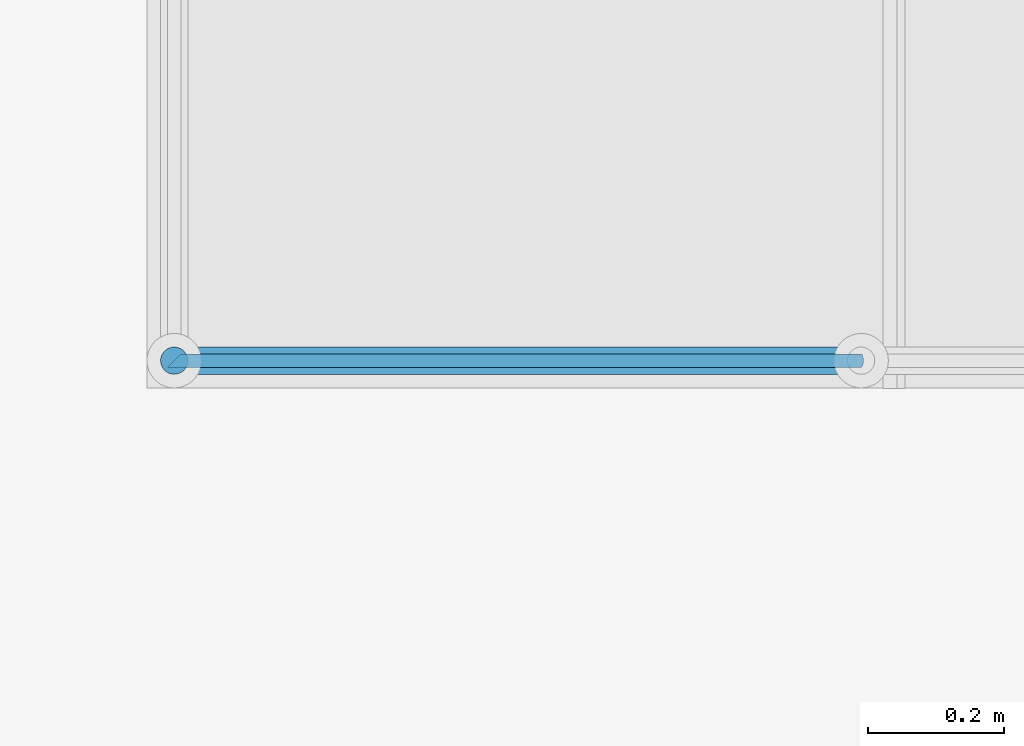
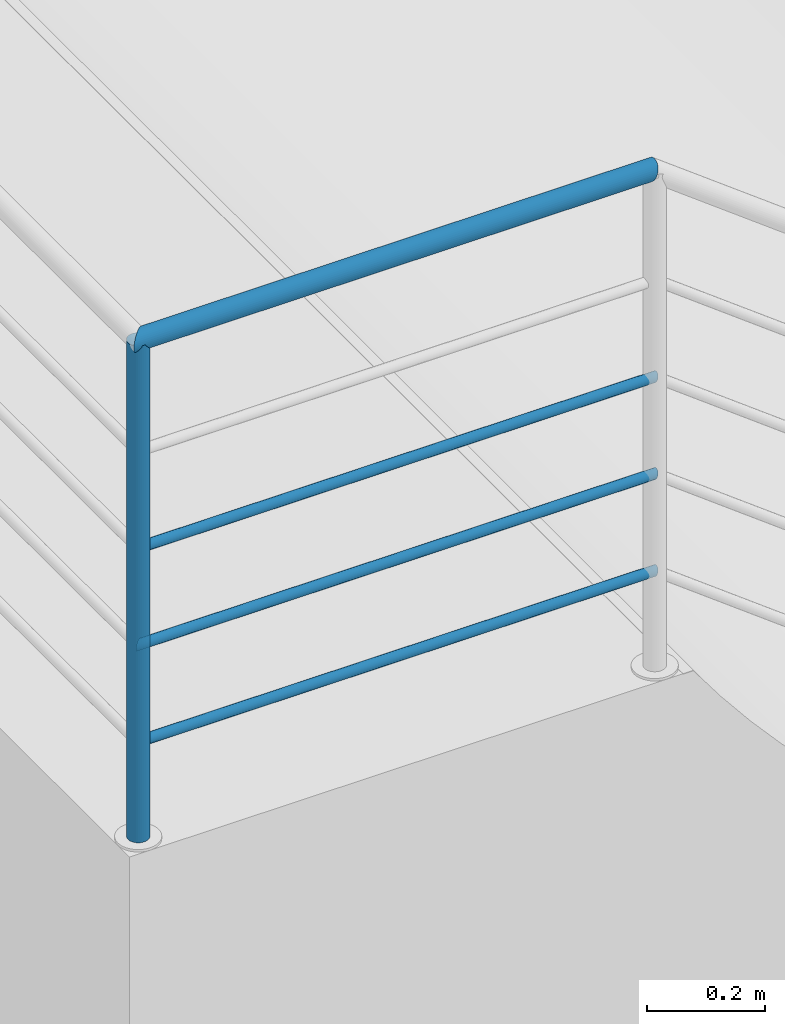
# One storey, part 27 of 237: 6 building element parts, 1 element without a shape of its own.
"""IFC2X3 building model written with IfcOpenShell, lengths in millimetres."""

import ifcopenshell
import ifcopenshell.guid

model = None  # the IFC model being written
_history = None  # IfcOwnerHistory: only IFC2X3 demands one
_inside = {}  # id of a spatial element -> (the spatial element, [elements in it])
_under = {}  # id of a project, library or spatial element -> (it, [spatial elements below it])
_declared = {}  # id of a project -> (the project, [libraries it declares])
_typed = {}  # id of a type object -> (the type object, [elements of that type])
_made_of = {}  # id of a material, layer set ... -> (it, [elements and type objects made of it])


def new_model(schema):
    """Start an empty IFC model of exactly this schema.

    Asked for "IFC4X3", IfcOpenShell would pick the latest addendum, in which some entities
    have other attributes; the version numbers below select the first issue.
    IFC2X3 requires an IfcOwnerHistory on every rooted entity: one is made here for all.
    """
    global model, _history
    if schema == "IFC4X3":
        model = ifcopenshell.file(schema_version=(4, 3, 0, 0))
    else:
        model = ifcopenshell.file(schema=schema)
    _inside.clear()
    _under.clear()
    _declared.clear()
    _typed.clear()
    _made_of.clear()
    _history = None
    if model.schema == "IFC2X3":
        org = make("IfcOrganization", Name="unknown")
        user = make(
            "IfcPersonAndOrganization",
            ThePerson=make("IfcPerson", FamilyName="unknown"),
            TheOrganization=org,
        )
        app = make(
            "IfcApplication",
            ApplicationDeveloper=org,
            Version="unknown",
            ApplicationFullName="unknown",
            ApplicationIdentifier="unknown",
        )
        _history = make(
            "IfcOwnerHistory",
            OwningUser=user,
            OwningApplication=app,
            ChangeAction="ADDED",
            CreationDate=0,
        )
    return model


def make(cls, **values):
    """One entity of the class cls with the attributes given. An attribute that is None is left unset."""
    return model.create_entity(
        cls, **{name: value for name, value in values.items() if value is not None}
    )


def entity(cls, *values):
    """Any entity or typed value of the class cls, its attributes in the order of the schema. None: left unset."""
    e = model.create_entity(cls)
    for i, value in enumerate(values):
        if value is not None:
            e[i] = value
    return e


def rooted(cls, **values):
    """An entity with a GlobalId (a new one), such as an element, a storey or a relation."""
    return make(cls, GlobalId=ifcopenshell.guid.new(), OwnerHistory=_history, **values)


def si_unit(unit_type, name, prefix=None):
    """IfcSIUnit, for example si_unit("LENGTHUNIT", "METRE", prefix="MILLI")."""
    return make("IfcSIUnit", UnitType=unit_type, Prefix=prefix, Name=name)


def converted_unit(unit_type, name, factor, base, dimensions=None, offset=None):
    """IfcConversionBasedUnit, such as the inch: factor (a typed value) times the base unit."""
    return make(
        "IfcConversionBasedUnit"
        if offset is None
        else "IfcConversionBasedUnitWithOffset",
        ConversionOffset=offset,
        Dimensions=None
        if dimensions is None
        else entity("IfcDimensionalExponents", *dimensions),
        UnitType=unit_type,
        Name=name,
        ConversionFactor=make(
            "IfcMeasureWithUnit", ValueComponent=factor, UnitComponent=base
        ),
    )


def derived_unit(unit_type, elements):
    """IfcDerivedUnit: a product of units, each with its exponent."""
    return make(
        "IfcDerivedUnit",
        Elements=[
            make("IfcDerivedUnitElement", Unit=unit, Exponent=power)
            for unit, power in elements
        ],
        UnitType=unit_type,
    )


def money_unit(currency):
    """IfcMonetaryUnit."""
    return make("IfcMonetaryUnit", Currency=currency)


def assignment(units):
    """IfcUnitAssignment: the units of a project."""
    return None if units is None else make("IfcUnitAssignment", Units=units)


def point(xyz):
    """IfcCartesianPoint."""
    return None if xyz is None else make("IfcCartesianPoint", Coordinates=xyz)


def direction(xyz):
    """IfcDirection."""
    return None if xyz is None else make("IfcDirection", DirectionRatios=xyz)


def frame(location, z_axis=None, x_axis=None):
    """IfcAxis2Placement3D, a coordinate frame: its origin and axes. An axis left out is left unset."""
    return make(
        "IfcAxis2Placement3D",
        Location=point(location),
        Axis=direction(z_axis),
        RefDirection=direction(x_axis),
    )


def origin_with_axes():
    """The frame at (0, 0, 0) with the z axis (0, 0, 1) and the x axis (1, 0, 0) written out."""
    return frame((0.0, 0.0, 0.0), z_axis=(0.0, 0.0, 1.0), x_axis=(1.0, 0.0, 0.0))


def place(relative_to, where):
    """IfcLocalPlacement: puts the frame where relative to a parent placement (None: the world)."""
    return make(
        "IfcLocalPlacement", PlacementRelTo=relative_to, RelativePlacement=where
    )


def context(
    kind, dimensions, precision=None, world=None, true_north=None, identifier=None
):
    """IfcGeometricRepresentationContext, for example the 3D "Model" context."""
    return make(
        "IfcGeometricRepresentationContext",
        ContextIdentifier=identifier,
        ContextType=kind,
        CoordinateSpaceDimension=dimensions,
        Precision=precision,
        WorldCoordinateSystem=world,
        TrueNorth=true_north,
    )


def subcontext(parent, identifier, kind, view, scale=None):
    """IfcGeometricRepresentationSubContext, for example "Body" below "Model"."""
    return make(
        "IfcGeometricRepresentationSubContext",
        ContextIdentifier=identifier,
        ContextType=kind,
        ParentContext=parent,
        TargetScale=scale,
        TargetView=view,
    )


def project(units=None, contexts=None):
    """IfcProject with its units and contexts."""
    return rooted(
        "IfcProject",
        Name="project",
        RepresentationContexts=contexts,
        UnitsInContext=assignment(units),
    )


def spatial(cls, under=None, at=None, **own):
    """A site, building, storey or space (cls), placed at a placement, below another one or the project."""
    s = rooted(cls, ObjectPlacement=at, **own)
    if under is not None:
        _under.setdefault(under.id(), (under, []))[1].append(s)
    return s


def faces_of(points, faces, orient=None, outer=None):
    """IfcFace entities. A face is a list of loops; a loop is a list of indices into points, from 0.

    orient and outer hold one flag for each loop. By default every Orientation is true, the
    first loop of a face is its IfcFaceOuterBound and the others are IfcFaceBound.
    """
    made = []
    for i, loops in enumerate(faces):
        bounds = []
        for j, loop in enumerate(loops):
            is_outer = j == 0 if outer is None else outer[i][j]
            bounds.append(
                make(
                    "IfcFaceOuterBound" if is_outer else "IfcFaceBound",
                    Bound=make("IfcPolyLoop", Polygon=[points[k] for k in loop]),
                    Orientation=True if orient is None else orient[i][j],
                )
            )
        made.append(make("IfcFace", Bounds=bounds))
    return made


def faceted_brep(points, faces, orient=None, outer=None, voids=None):
    """IfcFacetedBrep: a solid bounded by flat faces; with voids (closed shells), ...WithVoids."""
    shared = [point(p) for p in points]
    hull = make("IfcClosedShell", CfsFaces=faces_of(shared, faces, orient, outer))
    if voids is None:
        return make("IfcFacetedBrep", Outer=hull)
    return make(
        "IfcFacetedBrepWithVoids",
        Outer=hull,
        Voids=[
            make(cls, CfsFaces=faces_of(shared, fs, o, b)) for cls, fs, o, b in voids
        ],
    )


def shape(context_of_items, identifier, shape_type, items):
    """IfcShapeRepresentation: the items that make up one representation, for example the "Body"."""
    return make(
        "IfcShapeRepresentation",
        ContextOfItems=context_of_items,
        RepresentationIdentifier=identifier,
        RepresentationType=shape_type,
        Items=items,
    )


def material(Name=None, Category=None):
    """IfcMaterial."""
    return make("IfcMaterial", Name=Name, Category=Category)


def made_of(thing, what):
    """Note that an element or type object is made of a material, layer set ...; save() writes the relation."""
    if what is not None:
        _made_of.setdefault(what.id(), (what, []))[1].append(thing)
    return thing


def type_object(cls, material=None, **own):
    """A type object (cls), such as IfcWallType, which elements share."""
    return made_of(rooted(cls, **own), material)


def element(
    cls,
    number,
    at=None,
    inside=None,
    cuts=None,
    type_object=None,
    material=None,
    context=None,
    identifier="Body",
    shape_type=None,
    held_by="IfcProductDefinitionShape",
    body=None,
    shapes=None,
    **own,
):
    """One element of the class cls, such as IfcWall. Its Tag is "e" and its number.

    at: its placement. inside: the storey or other place that contains it. cuts: it is an
    opening in that element (IfcRelVoidsElement). A single representation is given by context,
    identifier, shape_type and body (its items); several are given by shapes. held_by: the class
    of the entity that holds the representations. save() writes the other relations.
    """
    e = rooted(cls, Tag="e%d" % number, ObjectPlacement=at, **own)
    if body is not None:
        shapes = [shape(context, identifier, shape_type, body)]
    if shapes is not None:
        e.Representation = make(held_by, Representations=shapes)
    if inside is not None:
        _inside.setdefault(inside.id(), (inside, []))[1].append(e)
    if cuts is not None:
        rooted(
            "IfcRelVoidsElement", RelatingBuildingElement=cuts, RelatedOpeningElement=e
        )
    if type_object is not None:
        _typed.setdefault(type_object.id(), (type_object, []))[1].append(e)
    return made_of(e, material)


def aggregate(whole, parts):
    """IfcRelAggregates: a whole, such as a stair, and the parts it consists of."""
    return rooted("IfcRelAggregates", RelatingObject=whole, RelatedObjects=parts)


def save(model, path):
    """Write the relations noted so far, then the file.

    IfcRelAggregates (storeys below a building ...), IfcRelContainedInSpatialStructure (elements
    in a storey), IfcRelDefinesByType, IfcRelAssociatesMaterial and IfcRelDeclares: one each for
    every whole, place, type object, material and project.
    """
    for whole, parts in _under.values():
        aggregate(whole, parts)
    for where, things in _inside.values():
        rooted(
            "IfcRelContainedInSpatialStructure",
            RelatedElements=things,
            RelatingStructure=where,
        )
    for kind, things in _typed.values():
        rooted("IfcRelDefinesByType", RelatedObjects=things, RelatingType=kind)
    for what, things in _made_of.values():
        rooted("IfcRelAssociatesMaterial", RelatedObjects=things, RelatingMaterial=what)
    for by, libraries in _declared.values():
        rooted("IfcRelDeclares", RelatingContext=by, RelatedDefinitions=libraries)
    model.write(path)


model = new_model("IFC2X3")

# Units and contexts
model_context = context("Model", 3, precision=0.01, world=origin_with_axes(), true_north=direction((0.0, 1.0)))
body_context = subcontext(model_context, "Body", "Model", "MODEL_VIEW")
ifc_project = project(units=[si_unit("LENGTHUNIT", "METRE", prefix="MILLI"), si_unit("AREAUNIT", "SQUARE_METRE"), si_unit("VOLUMEUNIT", "CUBIC_METRE"), converted_unit("PLANEANGLEUNIT", "DEGREE", entity("IfcPlaneAngleMeasure", 0.0174532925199), si_unit("PLANEANGLEUNIT", "RADIAN"), dimensions=[0, 0, 0, 0, 0, 0, 0]), money_unit("USD"), converted_unit("TIMEUNIT", "Year", entity("IfcTimeMeasure", 31556926.0), si_unit("TIMEUNIT", "SECOND"), dimensions=[0, 0, 1, 0, 0, 0, 0]), si_unit("MASSUNIT", "GRAM", prefix="KILO"), si_unit("THERMODYNAMICTEMPERATUREUNIT", "DEGREE_CELSIUS"), si_unit("LUMINOUSINTENSITYUNIT", "LUMEN"), si_unit("ENERGYUNIT", "JOULE", prefix="MEGA"), derived_unit("THERMALCONDUCTANCEUNIT", [(si_unit("POWERUNIT", "WATT"), 1), (si_unit("LENGTHUNIT", "METRE"), -1), (si_unit("THERMODYNAMICTEMPERATUREUNIT", "KELVIN"), -1)]), derived_unit("SPECIFICHEATCAPACITYUNIT", [(si_unit("ENERGYUNIT", "JOULE"), 1), (si_unit("MASSUNIT", "GRAM", prefix="KILO"), -1), (si_unit("THERMODYNAMICTEMPERATUREUNIT", "KELVIN"), -1)]), derived_unit("MASSDENSITYUNIT", [(si_unit("MASSUNIT", "GRAM", prefix="KILO"), 1), (si_unit("VOLUMEUNIT", "CUBIC_METRE"), -1)])], contexts=[model_context])

# Site, building, storey
site_placement = place(None, origin_with_axes())
site = spatial("IfcSite", under=ifc_project, at=site_placement, Name="Local", CompositionType="ELEMENT")
building_placement = place(site_placement, origin_with_axes())
building = spatial("IfcBuilding", under=site, at=building_placement, Name="Construção", CompositionType="ELEMENT")
storey_placement = place(building_placement, origin_with_axes())
storey = spatial("IfcBuildingStorey", under=building, at=storey_placement, Name="Pavimento Térreo", CompositionType="ELEMENT", Elevation=0.0)

# Railing, building element parts
railing_type = type_object("IfcRailingType", Name="Tipo de Guarda-Corpo", PredefinedType="NOTDEFINED")
railing_placement = place(storey_placement, frame((53912.4440926, 33356.4497128, -1263.04952679), z_axis=(0.0, 0.0, 1.0), x_axis=(1.0, 0.0, 0.0)))
railing = element("IfcRailing", 1, at=railing_placement, inside=storey, type_object=railing_type, Name="Guarda-Corpo - 001", PredefinedType="NOTDEFINED")
ifc_material = material(Name="Aço - Inoxidável")
building_element_part_1_placement = place(railing_placement, origin_with_axes())
building_element_part_1 = element("IfcBuildingElementPart", 2, at=building_element_part_1_placement, material=ifc_material, Name="Aço - Inoxidável", context=body_context, shape_type="Brep", body=[
    faceted_brep([(-2829.69615506, -5268.04049532, 910.941330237), (-2830.0, -5271.51345888, 910.941330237), (-2830.0, -5271.51345888, 1935.94133024), (-2829.69615506, -5268.04049532, 1935.94133024), (-2829.69615506, -5274.98642243, 910.941330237), (-2828.79385242, -5264.67305601, 910.941330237), (-2827.32050808, -5261.51345888, 910.941330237), (-2825.32088886, -5258.65770668, 910.941330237), (-2822.85575219, -5256.19257001, 910.941330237), (-2820.0, -5254.1929508, 910.941330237), (-2816.84040287, -5252.71960646, 910.941330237), (-2813.47296355, -5251.81730382, 910.941330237), (-2810.0, -5251.51345888, 910.941330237), (-2806.52703645, -5251.81730382, 910.941330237), (-2803.15959713, -5252.71960646, 910.941330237), (-2800.0, -5254.1929508, 910.941330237), (-2797.14424781, -5256.19257001, 910.941330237), (-2794.67911114, -5258.65770668, 910.941330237), (-2792.67949192, -5261.51345888, 910.941330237), (-2791.20614758, -5264.67305601, 910.941330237), (-2790.30384494, -5268.04049532, 910.941330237), (-2790.0, -5271.51345888, 910.941330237), (-2790.30384494, -5274.98642243, 910.941330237), (-2791.20614758, -5278.35386174, 910.941330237), (-2792.67949192, -5281.51345888, 910.941330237), (-2794.67911114, -5284.36921107, 910.941330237), (-2797.14424781, -5286.83434774, 910.941330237), (-2800.0, -5288.83396695, 910.941330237), (-2803.15959713, -5290.30731129, 910.941330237), (-2806.52703645, -5291.20961394, 910.941330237), (-2810.0, -5291.51345888, 910.941330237), (-2813.47296355, -5291.20961394, 910.941330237), (-2816.84040287, -5290.30731129, 910.941330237), (-2820.0, -5288.83396695, 910.941330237), (-2822.85575219, -5286.83434774, 910.941330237), (-2825.32088886, -5284.36921107, 910.941330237), (-2827.32050808, -5281.51345888, 910.941330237), (-2828.79385242, -5278.35386174, 910.941330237), (-2829.69615506, -5274.98642243, 1935.94133024), (-2806.52703645, -5251.81730382, 1935.94133024), (-2810.0, -5251.51345888, 1935.94133024), (-2813.47296355, -5251.81730382, 1935.94133024), (-2816.84040287, -5252.71960646, 1935.94133024), (-2820.0, -5254.1929508, 1935.94133024), (-2822.85575219, -5256.19257001, 1935.94133024), (-2825.32088886, -5258.65770668, 1935.94133024), (-2827.32050808, -5261.51345888, 1935.94133024), (-2828.79385242, -5264.67305601, 1935.94133024), (-2828.79385242, -5278.35386174, 1935.94133024), (-2827.32050808, -5281.51345888, 1935.94133024), (-2825.32088886, -5284.36921107, 1935.94133024), (-2822.85575219, -5286.83434774, 1935.94133024), (-2820.0, -5288.83396695, 1935.94133024), (-2816.84040287, -5290.30731129, 1935.94133024), (-2813.47296355, -5291.20961394, 1935.94133024), (-2810.0, -5291.51345888, 1935.94133024), (-2806.52703645, -5291.20961394, 1935.94133024), (-2803.15959713, -5290.30731129, 1935.94133024), (-2800.0, -5288.83396695, 1935.94133024), (-2797.14424781, -5286.83434774, 1935.94133024), (-2794.67911114, -5284.36921107, 1935.94133024), (-2792.67949192, -5281.51345888, 1935.94133024), (-2791.20614758, -5278.35386174, 1935.94133024), (-2790.30384494, -5274.98642243, 1935.94133024), (-2790.0, -5271.51345888, 1935.94133024), (-2790.30384494, -5268.04049532, 1935.94133024), (-2791.20614758, -5264.67305601, 1935.94133024), (-2792.67949192, -5261.51345888, 1935.94133024), (-2794.67911114, -5258.65770668, 1935.94133024), (-2797.14424781, -5256.19257001, 1935.94133024), (-2800.0, -5254.1929508, 1935.94133024), (-2803.15959713, -5252.71960646, 1935.94133024)], [[[0, 1, 2, 3]], [[4, 1, 0, 5, 6, 7, 8, 9, 10, 11, 12, 13, 14, 15, 16, 17, 18, 19, 20, 21, 22, 23, 24, 25, 26, 27, 28, 29, 30, 31, 32, 33, 34, 35, 36, 37]], [[1, 4, 38, 2]], [[39, 40, 41, 42, 43, 44, 45, 46, 47, 3, 2, 38, 48, 49, 50, 51, 52, 53, 54, 55, 56, 57, 58, 59, 60, 61, 62, 63, 64, 65, 66, 67, 68, 69, 70, 71]], [[5, 0, 3, 47]], [[6, 5, 47, 46]], [[7, 6, 46, 45]], [[8, 7, 45, 44]], [[9, 8, 44, 43]], [[10, 9, 43, 42]], [[11, 10, 42, 41]], [[12, 11, 41, 40]], [[13, 12, 40, 39]], [[14, 13, 39, 71]], [[15, 14, 71, 70]], [[16, 15, 70, 69]], [[17, 16, 69, 68]], [[18, 17, 68, 67]], [[19, 18, 67, 66]], [[20, 19, 66, 65]], [[21, 20, 65, 64]], [[22, 21, 64, 63]], [[23, 22, 63, 62]], [[24, 23, 62, 61]], [[25, 24, 61, 60]], [[26, 25, 60, 59]], [[27, 26, 59, 58]], [[28, 27, 58, 57]], [[29, 28, 57, 56]], [[30, 29, 56, 55]], [[31, 30, 55, 54]], [[32, 31, 54, 53]], [[33, 32, 53, 52]], [[34, 33, 52, 51]], [[35, 34, 51, 50]], [[36, 35, 50, 49]], [[37, 36, 49, 48]], [[4, 37, 48, 38]]]),
])
building_element_part_2_placement = place(railing_placement, origin_with_axes())
building_element_part_2 = element("IfcBuildingElementPart", 3, at=building_element_part_2_placement, material=ifc_material, Name="Aço - Inoxidável", context=body_context, shape_type="Brep", body=[
    faceted_brep([(-2790.0, -5251.51345888, 1935.94133024), (-2790.30384494, -5251.81730382, 1939.41429379), (-1807.30837048, -5251.81730382, 1939.41429379), (-1808.47196372, -5251.51345888, 1935.94133024), (-2790.30384494, -5251.81730382, 1932.46836668), (-2791.20614758, -5252.71960646, 1929.10092737), (-2792.67949192, -5254.1929508, 1925.94133024), (-2794.67911114, -5256.19257001, 1923.08557804), (-2797.14424781, -5258.65770668, 1920.62044137), (-2800.0, -5261.51345888, 1918.62082216), (-2803.15959713, -5264.67305601, 1917.14747782), (-2806.52703645, -5268.04049532, 1916.24517518), (-2810.0, -5271.51345888, 1915.94133024), (-2813.47296355, -5274.98642243, 1916.24517518), (-2816.84040287, -5278.35386174, 1917.14747782), (-2820.0, -5281.51345888, 1918.62082216), (-2822.85575219, -5284.36921107, 1920.62044137), (-2825.32088886, -5286.83434774, 1923.08557804), (-2827.32050808, -5288.83396695, 1925.94133024), (-2828.79385242, -5290.30731129, 1929.10092737), (-2829.69615506, -5291.20961394, 1932.46836668), (-2830.0, -5291.51345888, 1935.94133024), (-2829.69615506, -5291.20961394, 1939.41429379), (-2828.79385242, -5290.30731129, 1942.7817331), (-2827.32050808, -5288.83396695, 1945.94133024), (-2825.32088886, -5286.83434774, 1948.79708243), (-2822.85575219, -5284.36921107, 1951.2622191), (-2820.0, -5281.51345888, 1953.26183831), (-2816.84040287, -5278.35386174, 1954.73518265), (-2813.47296355, -5274.98642243, 1955.6374853), (-2810.0, -5271.51345888, 1955.94133024), (-2806.52703645, -5268.04049532, 1955.6374853), (-2803.15959713, -5264.67305601, 1954.73518265), (-2800.0, -5261.51345888, 1953.26183831), (-2797.14424781, -5258.65770668, 1951.2622191), (-2794.67911114, -5256.19257001, 1948.79708243), (-2792.67949192, -5254.1929508, 1945.94133024), (-2791.20614758, -5252.71960646, 1942.7817331), (-1806.18013242, -5252.71960646, 1942.7817331), (-1805.12153051, -5254.1929508, 1945.94133024), (-1804.16472981, -5256.19257001, 1948.79708243), (-1803.33880223, -5258.65770668, 1951.2622191), (-1802.66884317, -5261.51345888, 1953.26183831), (-1802.17520898, -5264.67305601, 1954.73518265), (-1801.87289851, -5268.04049532, 1955.6374853), (-1801.77109729, -5271.51345888, 1955.94133024), (-1801.87289851, -5274.98642243, 1955.6374853), (-1802.17520898, -5278.35386174, 1954.73518265), (-1802.66884317, -5281.51345888, 1953.26183831), (-1803.33880223, -5284.36921107, 1951.2622191), (-1804.16472981, -5286.83434774, 1948.79708243), (-1805.12153051, -5288.83396695, 1945.94133024), (-1806.18013242, -5290.30731129, 1942.7817331), (-1807.30837048, -5291.20961394, 1939.41429379), (-1808.47196372, -5291.51345888, 1935.94133024), (-1809.63555697, -5291.20961394, 1932.46836668), (-1810.76379502, -5290.30731129, 1929.10092737), (-1811.82239694, -5288.83396695, 1925.94133024), (-1812.77919764, -5286.83434774, 1923.08557804), (-1813.60512521, -5284.36921107, 1920.62044137), (-1814.27508428, -5281.51345888, 1918.62082216), (-1814.76871846, -5278.35386174, 1917.14747782), (-1815.07102893, -5274.98642243, 1916.24517518), (-1815.17283015, -5271.51345888, 1915.94133024), (-1815.07102893, -5268.04049532, 1916.24517518), (-1814.76871846, -5264.67305601, 1917.14747782), (-1814.27508428, -5261.51345888, 1918.62082216), (-1813.60512521, -5258.65770668, 1920.62044137), (-1812.77919764, -5256.19257001, 1923.08557804), (-1811.82239694, -5254.1929508, 1925.94133024), (-1810.76379502, -5252.71960646, 1929.10092737), (-1809.63555697, -5251.81730382, 1932.46836668)], [[[0, 1, 2, 3]], [[0, 4, 5, 6, 7, 8, 9, 10, 11, 12, 13, 14, 15, 16, 17, 18, 19, 20, 21, 22, 23, 24, 25, 26, 27, 28, 29, 30, 31, 32, 33, 34, 35, 36, 37, 1]], [[1, 37, 38, 2]], [[3, 2, 38, 39, 40, 41, 42, 43, 44, 45, 46, 47, 48, 49, 50, 51, 52, 53, 54, 55, 56, 57, 58, 59, 60, 61, 62, 63, 64, 65, 66, 67, 68, 69, 70, 71]], [[4, 0, 3, 71]], [[5, 4, 71, 70]], [[6, 5, 70, 69]], [[7, 6, 69, 68]], [[8, 7, 68, 67]], [[9, 8, 67, 66]], [[10, 9, 66, 65]], [[11, 10, 65, 64]], [[12, 11, 64, 63]], [[13, 12, 63, 62]], [[14, 13, 62, 61]], [[15, 14, 61, 60]], [[16, 15, 60, 59]], [[17, 16, 59, 58]], [[18, 17, 58, 57]], [[19, 18, 57, 56]], [[20, 19, 56, 55]], [[21, 20, 55, 54]], [[22, 21, 54, 53]], [[23, 22, 53, 52]], [[24, 23, 52, 51]], [[25, 24, 51, 50]], [[26, 25, 50, 49]], [[27, 26, 49, 48]], [[28, 27, 48, 47]], [[29, 28, 47, 46]], [[30, 29, 46, 45]], [[31, 30, 45, 44]], [[32, 31, 44, 43]], [[33, 32, 43, 42]], [[34, 33, 42, 41]], [[35, 34, 41, 40]], [[36, 35, 40, 39]], [[37, 36, 39, 38]]]),
])
building_element_part_3_placement = place(railing_placement, origin_with_axes())
building_element_part_3 = element("IfcBuildingElementPart", 4, at=building_element_part_3_placement, material=ifc_material, Name="Aço - Inoxidável", context=body_context, shape_type="Brep", body=[
    faceted_brep([(-2800.0, -5261.51345888, 1105.94133024), (-2800.15192247, -5261.66538135, 1107.67781201), (-1801.18930067, -5261.66538135, 1107.67781201), (-1801.77109729, -5261.51345888, 1105.94133024), (-2800.15192247, -5261.66538135, 1104.20484846), (-2800.60307379, -5262.11653267, 1102.5211288), (-2801.33974596, -5262.85320484, 1100.94133024), (-2802.33955557, -5263.85301445, 1099.51345414), (-2803.5721239, -5265.08558278, 1098.28088581), (-2805.0, -5266.51345888, 1097.2810762), (-2806.57979857, -5268.09325744, 1096.54440403), (-2808.26351822, -5269.7769771, 1096.09325271), (-2810.0, -5271.51345888, 1095.94133024), (-2811.73648178, -5273.24994065, 1096.09325271), (-2813.42020143, -5274.93366031, 1096.54440403), (-2815.0, -5276.51345888, 1097.2810762), (-2816.4278761, -5277.94133497, 1098.28088581), (-2817.66044443, -5279.17390331, 1099.51345414), (-2818.66025404, -5280.17371292, 1100.94133024), (-2819.39692621, -5280.91038509, 1102.5211288), (-2819.84807753, -5281.36153641, 1104.20484846), (-2820.0, -5281.51345888, 1105.94133024), (-2819.84807753, -5281.36153641, 1107.67781201), (-2819.39692621, -5280.91038509, 1109.36153167), (-2818.66025404, -5280.17371292, 1110.94133024), (-2817.66044443, -5279.17390331, 1112.36920633), (-2816.4278761, -5277.94133497, 1113.60177467), (-2815.0, -5276.51345888, 1114.60158427), (-2813.42020143, -5274.93366031, 1115.33825644), (-2811.73648178, -5273.24994065, 1115.78940777), (-2810.0, -5271.51345888, 1115.94133024), (-2808.26351822, -5269.7769771, 1115.78940777), (-2806.57979857, -5268.09325744, 1115.33825644), (-2805.0, -5266.51345888, 1114.60158427), (-2803.5721239, -5265.08558278, 1113.60177467), (-2802.33955557, -5263.85301445, 1112.36920633), (-2801.33974596, -5262.85320484, 1110.94133024), (-2800.60307379, -5262.11653267, 1109.36153167), (-1800.62518164, -5262.11653267, 1109.36153167), (-1800.09588068, -5262.85320484, 1110.94133024), (-1799.61748033, -5263.85301445, 1112.36920633), (-1799.20451654, -5265.08558278, 1113.60177467), (-1798.86953701, -5266.51345888, 1114.60158427), (-1798.62271992, -5268.09325744, 1115.33825644), (-1798.47156468, -5269.7769771, 1115.78940777), (-1798.42066408, -5271.51345888, 1115.94133024), (-1798.47156468, -5273.24994065, 1115.78940777), (-1798.62271992, -5274.93366031, 1115.33825644), (-1798.86953701, -5276.51345888, 1114.60158427), (-1799.20451654, -5277.94133497, 1113.60177467), (-1799.61748033, -5279.17390331, 1112.36920633), (-1800.09588068, -5280.17371292, 1110.94133024), (-1800.62518164, -5280.91038509, 1109.36153167), (-1801.18930067, -5281.36153641, 1107.67781201), (-1801.77109729, -5281.51345888, 1105.94133024), (-1802.35289391, -5281.36153641, 1104.20484846), (-1802.91701294, -5280.91038509, 1102.5211288), (-1803.4463139, -5280.17371292, 1100.94133024), (-1803.92471425, -5279.17390331, 1099.51345414), (-1804.33767804, -5277.94133497, 1098.28088581), (-1804.67265757, -5276.51345888, 1097.2810762), (-1804.91947466, -5274.93366031, 1096.54440403), (-1805.0706299, -5273.24994065, 1096.09325271), (-1805.12153051, -5271.51345888, 1095.94133024), (-1805.0706299, -5269.7769771, 1096.09325271), (-1804.91947466, -5268.09325744, 1096.54440403), (-1804.67265757, -5266.51345888, 1097.2810762), (-1804.33767804, -5265.08558278, 1098.28088581), (-1803.92471425, -5263.85301445, 1099.51345414), (-1803.4463139, -5262.85320484, 1100.94133024), (-1802.91701294, -5262.11653267, 1102.5211288), (-1802.35289391, -5261.66538135, 1104.20484846)], [[[0, 1, 2, 3]], [[0, 4, 5, 6, 7, 8, 9, 10, 11, 12, 13, 14, 15, 16, 17, 18, 19, 20, 21, 22, 23, 24, 25, 26, 27, 28, 29, 30, 31, 32, 33, 34, 35, 36, 37, 1]], [[1, 37, 38, 2]], [[3, 2, 38, 39, 40, 41, 42, 43, 44, 45, 46, 47, 48, 49, 50, 51, 52, 53, 54, 55, 56, 57, 58, 59, 60, 61, 62, 63, 64, 65, 66, 67, 68, 69, 70, 71]], [[4, 0, 3, 71]], [[5, 4, 71, 70]], [[6, 5, 70, 69]], [[7, 6, 69, 68]], [[8, 7, 68, 67]], [[9, 8, 67, 66]], [[10, 9, 66, 65]], [[11, 10, 65, 64]], [[12, 11, 64, 63]], [[13, 12, 63, 62]], [[14, 13, 62, 61]], [[15, 14, 61, 60]], [[16, 15, 60, 59]], [[17, 16, 59, 58]], [[18, 17, 58, 57]], [[19, 18, 57, 56]], [[20, 19, 56, 55]], [[21, 20, 55, 54]], [[22, 21, 54, 53]], [[23, 22, 53, 52]], [[24, 23, 52, 51]], [[25, 24, 51, 50]], [[26, 25, 50, 49]], [[27, 26, 49, 48]], [[28, 27, 48, 47]], [[29, 28, 47, 46]], [[30, 29, 46, 45]], [[31, 30, 45, 44]], [[32, 31, 44, 43]], [[33, 32, 43, 42]], [[34, 33, 42, 41]], [[35, 34, 41, 40]], [[36, 35, 40, 39]], [[37, 36, 39, 38]]]),
])
building_element_part_4_placement = place(railing_placement, origin_with_axes())
building_element_part_4 = element("IfcBuildingElementPart", 5, at=building_element_part_4_placement, material=ifc_material, Name="Aço - Inoxidável", context=body_context, shape_type="Brep", body=[
    faceted_brep([(-2800.0, -5261.51345888, 1305.94133024), (-2800.15192247, -5261.66538135, 1307.67781201), (-1801.18930067, -5261.66538135, 1307.67781201), (-1801.77109729, -5261.51345888, 1305.94133024), (-2800.15192247, -5261.66538135, 1304.20484846), (-2800.60307379, -5262.11653267, 1302.5211288), (-2801.33974596, -5262.85320484, 1300.94133024), (-2802.33955557, -5263.85301445, 1299.51345414), (-2803.5721239, -5265.08558278, 1298.28088581), (-2805.0, -5266.51345888, 1297.2810762), (-2806.57979857, -5268.09325744, 1296.54440403), (-2808.26351822, -5269.7769771, 1296.09325271), (-2810.0, -5271.51345888, 1295.94133024), (-2811.73648178, -5273.24994065, 1296.09325271), (-2813.42020143, -5274.93366031, 1296.54440403), (-2815.0, -5276.51345888, 1297.2810762), (-2816.4278761, -5277.94133497, 1298.28088581), (-2817.66044443, -5279.17390331, 1299.51345414), (-2818.66025404, -5280.17371292, 1300.94133024), (-2819.39692621, -5280.91038509, 1302.5211288), (-2819.84807753, -5281.36153641, 1304.20484846), (-2820.0, -5281.51345888, 1305.94133024), (-2819.84807753, -5281.36153641, 1307.67781201), (-2819.39692621, -5280.91038509, 1309.36153167), (-2818.66025404, -5280.17371292, 1310.94133024), (-2817.66044443, -5279.17390331, 1312.36920633), (-2816.4278761, -5277.94133497, 1313.60177467), (-2815.0, -5276.51345888, 1314.60158427), (-2813.42020143, -5274.93366031, 1315.33825644), (-2811.73648178, -5273.24994065, 1315.78940777), (-2810.0, -5271.51345888, 1315.94133024), (-2808.26351822, -5269.7769771, 1315.78940777), (-2806.57979857, -5268.09325744, 1315.33825644), (-2805.0, -5266.51345888, 1314.60158427), (-2803.5721239, -5265.08558278, 1313.60177467), (-2802.33955557, -5263.85301445, 1312.36920633), (-2801.33974596, -5262.85320484, 1310.94133024), (-2800.60307379, -5262.11653267, 1309.36153167), (-1800.62518164, -5262.11653267, 1309.36153167), (-1800.09588068, -5262.85320484, 1310.94133024), (-1799.61748033, -5263.85301445, 1312.36920633), (-1799.20451654, -5265.08558278, 1313.60177467), (-1798.86953701, -5266.51345888, 1314.60158427), (-1798.62271992, -5268.09325744, 1315.33825644), (-1798.47156468, -5269.7769771, 1315.78940777), (-1798.42066408, -5271.51345888, 1315.94133024), (-1798.47156468, -5273.24994065, 1315.78940777), (-1798.62271992, -5274.93366031, 1315.33825644), (-1798.86953701, -5276.51345888, 1314.60158427), (-1799.20451654, -5277.94133497, 1313.60177467), (-1799.61748033, -5279.17390331, 1312.36920633), (-1800.09588068, -5280.17371292, 1310.94133024), (-1800.62518164, -5280.91038509, 1309.36153167), (-1801.18930067, -5281.36153641, 1307.67781201), (-1801.77109729, -5281.51345888, 1305.94133024), (-1802.35289391, -5281.36153641, 1304.20484846), (-1802.91701294, -5280.91038509, 1302.5211288), (-1803.4463139, -5280.17371292, 1300.94133024), (-1803.92471425, -5279.17390331, 1299.51345414), (-1804.33767804, -5277.94133497, 1298.28088581), (-1804.67265757, -5276.51345888, 1297.2810762), (-1804.91947466, -5274.93366031, 1296.54440403), (-1805.0706299, -5273.24994065, 1296.09325271), (-1805.12153051, -5271.51345888, 1295.94133024), (-1805.0706299, -5269.7769771, 1296.09325271), (-1804.91947466, -5268.09325744, 1296.54440403), (-1804.67265757, -5266.51345888, 1297.2810762), (-1804.33767804, -5265.08558278, 1298.28088581), (-1803.92471425, -5263.85301445, 1299.51345414), (-1803.4463139, -5262.85320484, 1300.94133024), (-1802.91701294, -5262.11653267, 1302.5211288), (-1802.35289391, -5261.66538135, 1304.20484846)], [[[0, 1, 2, 3]], [[0, 4, 5, 6, 7, 8, 9, 10, 11, 12, 13, 14, 15, 16, 17, 18, 19, 20, 21, 22, 23, 24, 25, 26, 27, 28, 29, 30, 31, 32, 33, 34, 35, 36, 37, 1]], [[1, 37, 38, 2]], [[3, 2, 38, 39, 40, 41, 42, 43, 44, 45, 46, 47, 48, 49, 50, 51, 52, 53, 54, 55, 56, 57, 58, 59, 60, 61, 62, 63, 64, 65, 66, 67, 68, 69, 70, 71]], [[4, 0, 3, 71]], [[5, 4, 71, 70]], [[6, 5, 70, 69]], [[7, 6, 69, 68]], [[8, 7, 68, 67]], [[9, 8, 67, 66]], [[10, 9, 66, 65]], [[11, 10, 65, 64]], [[12, 11, 64, 63]], [[13, 12, 63, 62]], [[14, 13, 62, 61]], [[15, 14, 61, 60]], [[16, 15, 60, 59]], [[17, 16, 59, 58]], [[18, 17, 58, 57]], [[19, 18, 57, 56]], [[20, 19, 56, 55]], [[21, 20, 55, 54]], [[22, 21, 54, 53]], [[23, 22, 53, 52]], [[24, 23, 52, 51]], [[25, 24, 51, 50]], [[26, 25, 50, 49]], [[27, 26, 49, 48]], [[28, 27, 48, 47]], [[29, 28, 47, 46]], [[30, 29, 46, 45]], [[31, 30, 45, 44]], [[32, 31, 44, 43]], [[33, 32, 43, 42]], [[34, 33, 42, 41]], [[35, 34, 41, 40]], [[36, 35, 40, 39]], [[37, 36, 39, 38]]]),
])
building_element_part_5_placement = place(railing_placement, origin_with_axes())
building_element_part_5 = element("IfcBuildingElementPart", 6, at=building_element_part_5_placement, material=ifc_material, Name="Aço - Inoxidável", context=body_context, shape_type="Brep", body=[
    faceted_brep([(-2800.0, -5261.51345888, 1305.94133024), (-2800.15192247, -5261.66538135, 1307.67781201), (-1801.18930067, -5261.66538135, 1307.67781201), (-1801.77109729, -5261.51345888, 1305.94133024), (-2800.15192247, -5261.66538135, 1304.20484846), (-2800.60307379, -5262.11653267, 1302.5211288), (-2801.33974596, -5262.85320484, 1300.94133024), (-2802.33955557, -5263.85301445, 1299.51345414), (-2803.5721239, -5265.08558278, 1298.28088581), (-2805.0, -5266.51345888, 1297.2810762), (-2806.57979857, -5268.09325744, 1296.54440403), (-2808.26351822, -5269.7769771, 1296.09325271), (-2810.0, -5271.51345888, 1295.94133024), (-2811.73648178, -5273.24994065, 1296.09325271), (-2813.42020143, -5274.93366031, 1296.54440403), (-2815.0, -5276.51345888, 1297.2810762), (-2816.4278761, -5277.94133497, 1298.28088581), (-2817.66044443, -5279.17390331, 1299.51345414), (-2818.66025404, -5280.17371292, 1300.94133024), (-2819.39692621, -5280.91038509, 1302.5211288), (-2819.84807753, -5281.36153641, 1304.20484846), (-2820.0, -5281.51345888, 1305.94133024), (-2819.84807753, -5281.36153641, 1307.67781201), (-2819.39692621, -5280.91038509, 1309.36153167), (-2818.66025404, -5280.17371292, 1310.94133024), (-2817.66044443, -5279.17390331, 1312.36920633), (-2816.4278761, -5277.94133497, 1313.60177467), (-2815.0, -5276.51345888, 1314.60158427), (-2813.42020143, -5274.93366031, 1315.33825644), (-2811.73648178, -5273.24994065, 1315.78940777), (-2810.0, -5271.51345888, 1315.94133024), (-2808.26351822, -5269.7769771, 1315.78940777), (-2806.57979857, -5268.09325744, 1315.33825644), (-2805.0, -5266.51345888, 1314.60158427), (-2803.5721239, -5265.08558278, 1313.60177467), (-2802.33955557, -5263.85301445, 1312.36920633), (-2801.33974596, -5262.85320484, 1310.94133024), (-2800.60307379, -5262.11653267, 1309.36153167), (-1800.62518164, -5262.11653267, 1309.36153167), (-1800.09588068, -5262.85320484, 1310.94133024), (-1799.61748033, -5263.85301445, 1312.36920633), (-1799.20451654, -5265.08558278, 1313.60177467), (-1798.86953701, -5266.51345888, 1314.60158427), (-1798.62271992, -5268.09325744, 1315.33825644), (-1798.47156468, -5269.7769771, 1315.78940777), (-1798.42066408, -5271.51345888, 1315.94133024), (-1798.47156468, -5273.24994065, 1315.78940777), (-1798.62271992, -5274.93366031, 1315.33825644), (-1798.86953701, -5276.51345888, 1314.60158427), (-1799.20451654, -5277.94133497, 1313.60177467), (-1799.61748033, -5279.17390331, 1312.36920633), (-1800.09588068, -5280.17371292, 1310.94133024), (-1800.62518164, -5280.91038509, 1309.36153167), (-1801.18930067, -5281.36153641, 1307.67781201), (-1801.77109729, -5281.51345888, 1305.94133024), (-1802.35289391, -5281.36153641, 1304.20484846), (-1802.91701294, -5280.91038509, 1302.5211288), (-1803.4463139, -5280.17371292, 1300.94133024), (-1803.92471425, -5279.17390331, 1299.51345414), (-1804.33767804, -5277.94133497, 1298.28088581), (-1804.67265757, -5276.51345888, 1297.2810762), (-1804.91947466, -5274.93366031, 1296.54440403), (-1805.0706299, -5273.24994065, 1296.09325271), (-1805.12153051, -5271.51345888, 1295.94133024), (-1805.0706299, -5269.7769771, 1296.09325271), (-1804.91947466, -5268.09325744, 1296.54440403), (-1804.67265757, -5266.51345888, 1297.2810762), (-1804.33767804, -5265.08558278, 1298.28088581), (-1803.92471425, -5263.85301445, 1299.51345414), (-1803.4463139, -5262.85320484, 1300.94133024), (-1802.91701294, -5262.11653267, 1302.5211288), (-1802.35289391, -5261.66538135, 1304.20484846)], [[[0, 1, 2, 3]], [[0, 4, 5, 6, 7, 8, 9, 10, 11, 12, 13, 14, 15, 16, 17, 18, 19, 20, 21, 22, 23, 24, 25, 26, 27, 28, 29, 30, 31, 32, 33, 34, 35, 36, 37, 1]], [[1, 37, 38, 2]], [[3, 2, 38, 39, 40, 41, 42, 43, 44, 45, 46, 47, 48, 49, 50, 51, 52, 53, 54, 55, 56, 57, 58, 59, 60, 61, 62, 63, 64, 65, 66, 67, 68, 69, 70, 71]], [[4, 0, 3, 71]], [[5, 4, 71, 70]], [[6, 5, 70, 69]], [[7, 6, 69, 68]], [[8, 7, 68, 67]], [[9, 8, 67, 66]], [[10, 9, 66, 65]], [[11, 10, 65, 64]], [[12, 11, 64, 63]], [[13, 12, 63, 62]], [[14, 13, 62, 61]], [[15, 14, 61, 60]], [[16, 15, 60, 59]], [[17, 16, 59, 58]], [[18, 17, 58, 57]], [[19, 18, 57, 56]], [[20, 19, 56, 55]], [[21, 20, 55, 54]], [[22, 21, 54, 53]], [[23, 22, 53, 52]], [[24, 23, 52, 51]], [[25, 24, 51, 50]], [[26, 25, 50, 49]], [[27, 26, 49, 48]], [[28, 27, 48, 47]], [[29, 28, 47, 46]], [[30, 29, 46, 45]], [[31, 30, 45, 44]], [[32, 31, 44, 43]], [[33, 32, 43, 42]], [[34, 33, 42, 41]], [[35, 34, 41, 40]], [[36, 35, 40, 39]], [[37, 36, 39, 38]]]),
])
building_element_part_6_placement = place(railing_placement, origin_with_axes())
building_element_part_6 = element("IfcBuildingElementPart", 7, at=building_element_part_6_placement, material=ifc_material, Name="Aço - Inoxidável", context=body_context, shape_type="Brep", body=[
    faceted_brep([(-2800.0, -5261.51345888, 1505.94133024), (-2800.15192247, -5261.66538135, 1507.67781201), (-1801.18930067, -5261.66538135, 1507.67781201), (-1801.77109729, -5261.51345888, 1505.94133024), (-2800.15192247, -5261.66538135, 1504.20484846), (-2800.60307379, -5262.11653267, 1502.5211288), (-2801.33974596, -5262.85320484, 1500.94133024), (-2802.33955557, -5263.85301445, 1499.51345414), (-2803.5721239, -5265.08558278, 1498.28088581), (-2805.0, -5266.51345888, 1497.2810762), (-2806.57979857, -5268.09325744, 1496.54440403), (-2808.26351822, -5269.7769771, 1496.09325271), (-2810.0, -5271.51345888, 1495.94133024), (-2811.73648178, -5273.24994065, 1496.09325271), (-2813.42020143, -5274.93366031, 1496.54440403), (-2815.0, -5276.51345888, 1497.2810762), (-2816.4278761, -5277.94133497, 1498.28088581), (-2817.66044443, -5279.17390331, 1499.51345414), (-2818.66025404, -5280.17371292, 1500.94133024), (-2819.39692621, -5280.91038509, 1502.5211288), (-2819.84807753, -5281.36153641, 1504.20484846), (-2820.0, -5281.51345888, 1505.94133024), (-2819.84807753, -5281.36153641, 1507.67781201), (-2819.39692621, -5280.91038509, 1509.36153167), (-2818.66025404, -5280.17371292, 1510.94133024), (-2817.66044443, -5279.17390331, 1512.36920633), (-2816.4278761, -5277.94133497, 1513.60177467), (-2815.0, -5276.51345888, 1514.60158427), (-2813.42020143, -5274.93366031, 1515.33825644), (-2811.73648178, -5273.24994065, 1515.78940777), (-2810.0, -5271.51345888, 1515.94133024), (-2808.26351822, -5269.7769771, 1515.78940777), (-2806.57979857, -5268.09325744, 1515.33825644), (-2805.0, -5266.51345888, 1514.60158427), (-2803.5721239, -5265.08558278, 1513.60177467), (-2802.33955557, -5263.85301445, 1512.36920633), (-2801.33974596, -5262.85320484, 1510.94133024), (-2800.60307379, -5262.11653267, 1509.36153167), (-1800.62518164, -5262.11653267, 1509.36153167), (-1800.09588068, -5262.85320484, 1510.94133024), (-1799.61748033, -5263.85301445, 1512.36920633), (-1799.20451654, -5265.08558278, 1513.60177467), (-1798.86953701, -5266.51345888, 1514.60158427), (-1798.62271992, -5268.09325744, 1515.33825644), (-1798.47156468, -5269.7769771, 1515.78940777), (-1798.42066408, -5271.51345888, 1515.94133024), (-1798.47156468, -5273.24994065, 1515.78940777), (-1798.62271992, -5274.93366031, 1515.33825644), (-1798.86953701, -5276.51345888, 1514.60158427), (-1799.20451654, -5277.94133497, 1513.60177467), (-1799.61748033, -5279.17390331, 1512.36920633), (-1800.09588068, -5280.17371292, 1510.94133024), (-1800.62518164, -5280.91038509, 1509.36153167), (-1801.18930067, -5281.36153641, 1507.67781201), (-1801.77109729, -5281.51345888, 1505.94133024), (-1802.35289391, -5281.36153641, 1504.20484846), (-1802.91701294, -5280.91038509, 1502.5211288), (-1803.4463139, -5280.17371292, 1500.94133024), (-1803.92471425, -5279.17390331, 1499.51345414), (-1804.33767804, -5277.94133497, 1498.28088581), (-1804.67265757, -5276.51345888, 1497.2810762), (-1804.91947466, -5274.93366031, 1496.54440403), (-1805.0706299, -5273.24994065, 1496.09325271), (-1805.12153051, -5271.51345888, 1495.94133024), (-1805.0706299, -5269.7769771, 1496.09325271), (-1804.91947466, -5268.09325744, 1496.54440403), (-1804.67265757, -5266.51345888, 1497.2810762), (-1804.33767804, -5265.08558278, 1498.28088581), (-1803.92471425, -5263.85301445, 1499.51345414), (-1803.4463139, -5262.85320484, 1500.94133024), (-1802.91701294, -5262.11653267, 1502.5211288), (-1802.35289391, -5261.66538135, 1504.20484846)], [[[0, 1, 2, 3]], [[0, 4, 5, 6, 7, 8, 9, 10, 11, 12, 13, 14, 15, 16, 17, 18, 19, 20, 21, 22, 23, 24, 25, 26, 27, 28, 29, 30, 31, 32, 33, 34, 35, 36, 37, 1]], [[1, 37, 38, 2]], [[3, 2, 38, 39, 40, 41, 42, 43, 44, 45, 46, 47, 48, 49, 50, 51, 52, 53, 54, 55, 56, 57, 58, 59, 60, 61, 62, 63, 64, 65, 66, 67, 68, 69, 70, 71]], [[4, 0, 3, 71]], [[5, 4, 71, 70]], [[6, 5, 70, 69]], [[7, 6, 69, 68]], [[8, 7, 68, 67]], [[9, 8, 67, 66]], [[10, 9, 66, 65]], [[11, 10, 65, 64]], [[12, 11, 64, 63]], [[13, 12, 63, 62]], [[14, 13, 62, 61]], [[15, 14, 61, 60]], [[16, 15, 60, 59]], [[17, 16, 59, 58]], [[18, 17, 58, 57]], [[19, 18, 57, 56]], [[20, 19, 56, 55]], [[21, 20, 55, 54]], [[22, 21, 54, 53]], [[23, 22, 53, 52]], [[24, 23, 52, 51]], [[25, 24, 51, 50]], [[26, 25, 50, 49]], [[27, 26, 49, 48]], [[28, 27, 48, 47]], [[29, 28, 47, 46]], [[30, 29, 46, 45]], [[31, 30, 45, 44]], [[32, 31, 44, 43]], [[33, 32, 43, 42]], [[34, 33, 42, 41]], [[35, 34, 41, 40]], [[36, 35, 40, 39]], [[37, 36, 39, 38]]]),
])
aggregate(railing, [building_element_part_1, building_element_part_2, building_element_part_3, building_element_part_4, building_element_part_5, building_element_part_6])

save(model, "model.ifc")
